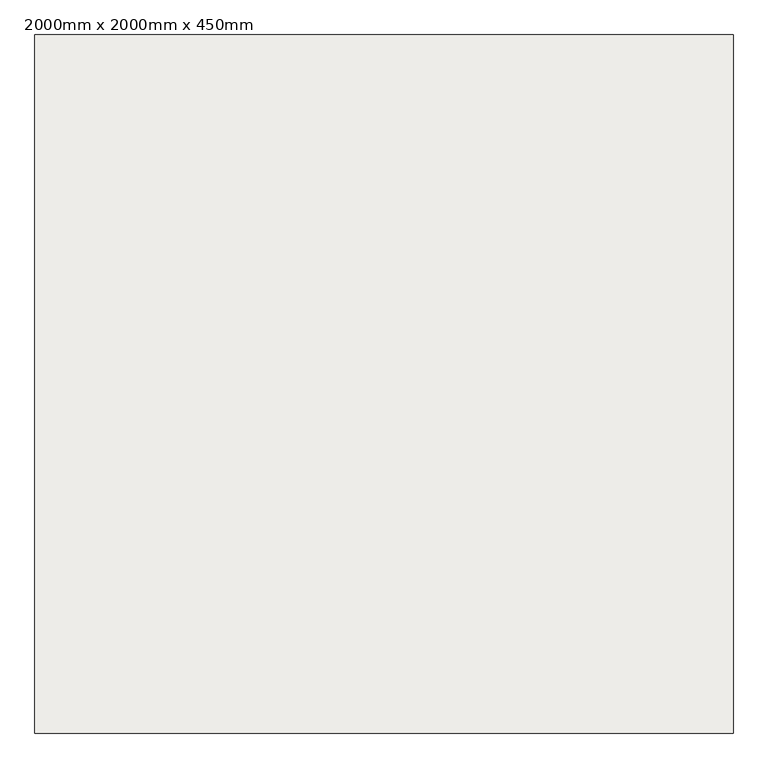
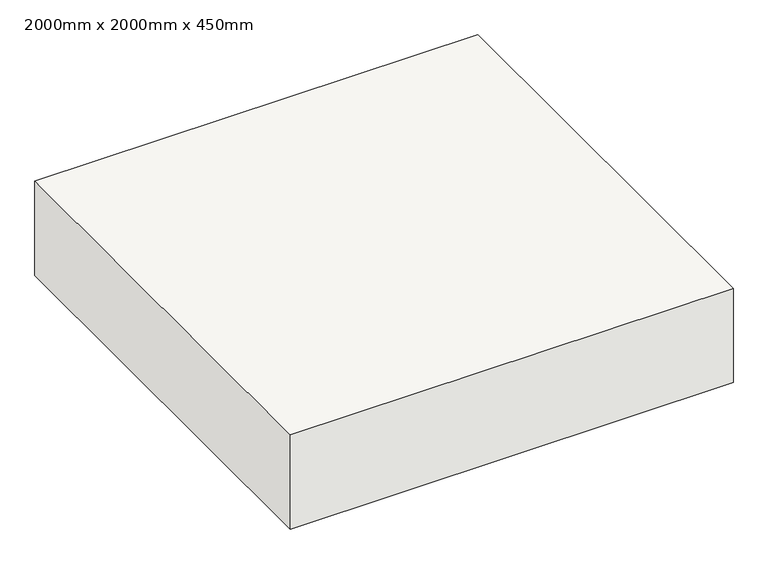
"""IFC4 building model written with IfcOpenShell, lengths in millimetres: slab geometry, 独立基础 : 2000mm x 2000mm x 450mm."""

from ifc_helpers import new_model, si_unit, frame, origin, place, context, project, spatial, polyline, outline, extrude, source, transform, mapped, element, save


def slab_2000mm_x_2000mm_x_450mm_d551b5b0(model_context):
    return source(origin(), model_context, "Body", "SweptSolid", [
        extrude(outline(polyline([(1000.0, 1000.0), (1000.0, -1000.0), (-1000.0, -1000.0), (-1000.0, 1000.0), (1000.0, 1000.0)])), frame((0.0, 0.0, -450.0), z_axis=(0.0, 0.0, 1.0), x_axis=(1.0, 0.0, 0.0)), (0.0, 0.0, 1.0), 450.0),
    ])


if __name__ == "__main__":
    model = new_model("IFC4")
    model_context = context("Model", 3, world=origin())
    ifc_project = project(units=[si_unit("LENGTHUNIT", "METRE", prefix="MILLI")], contexts=[model_context])
    site = spatial("IfcSite", under=ifc_project)
    building = spatial("IfcBuilding", under=site)
    placement = place(None, origin())
    slab_2000mm_x_2000mm_x_450mm_shape = slab_2000mm_x_2000mm_x_450mm_d551b5b0(model_context)
    element("IfcSlab", 1, ObjectType="独立基础 : 2000mm x 2000mm x 450mm", at=placement, inside=building, context=model_context, shape_type="MappedRepresentation", body=[
        mapped(slab_2000mm_x_2000mm_x_450mm_shape, transform((0.0, 0.0, 0.0), x_axis=(1.0, 0.0, 0.0), y_axis=(0.0, 1.0, 0.0), z_axis=(0.0, 0.0, 1.0))),
    ])
    save(model, "model.ifc")
